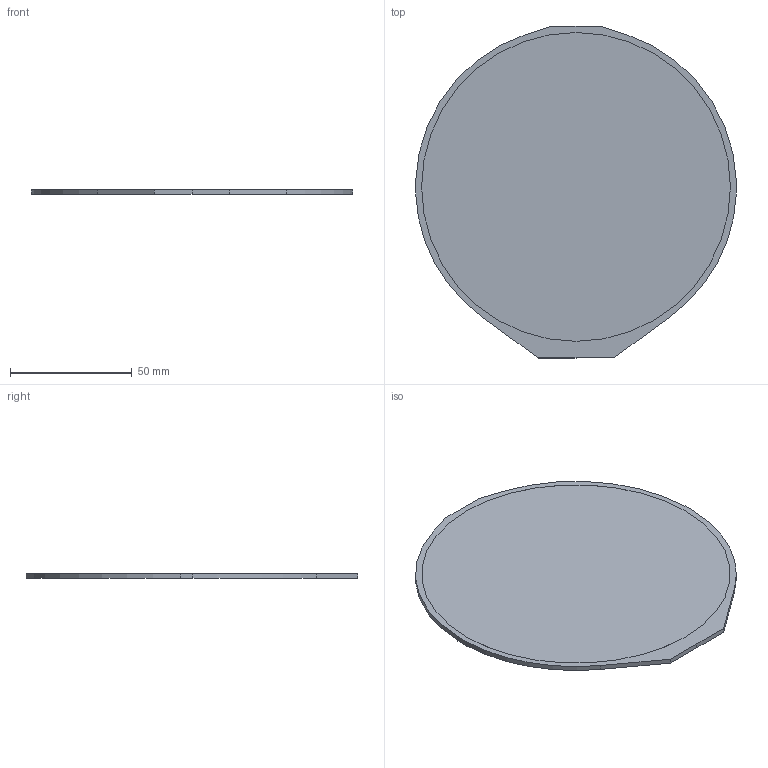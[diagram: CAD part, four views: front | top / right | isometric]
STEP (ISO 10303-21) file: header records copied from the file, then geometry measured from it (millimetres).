
FILE_DESCRIPTION (( 'STEP AP203' ), '1' );
FILE_NAME ('DM-TFTR50-413.STEP', '2022-08-14T12:00:30', ( '' ), ( '' ), 'SwSTEP 2.0', 'SolidWorks 2018', '' );
FILE_SCHEMA (( 'CONFIG_CONTROL_DESIGN' ));
Length unit declared in the file: millimetre
Products named in the file (1): DM-TFTR50-413
Bounding box: 132.2 x 136.53 x 1.98 mm (x, y, z)
Volume: 27508 mm3; surface area: 28752.1 mm2
Topology: 1 solids, 1 shells, 22 faces, 57 edges, 38 vertices
Faces by surface type: plane 16, cylinder 6
Entity records: 750 total; most frequent: CARTESIAN_POINT 118, DIRECTION 115, ORIENTED_EDGE 114, EDGE_CURVE 57, LINE 45, VECTOR 45, VERTEX_POINT 38, AXIS2_PLACEMENT_3D 35
